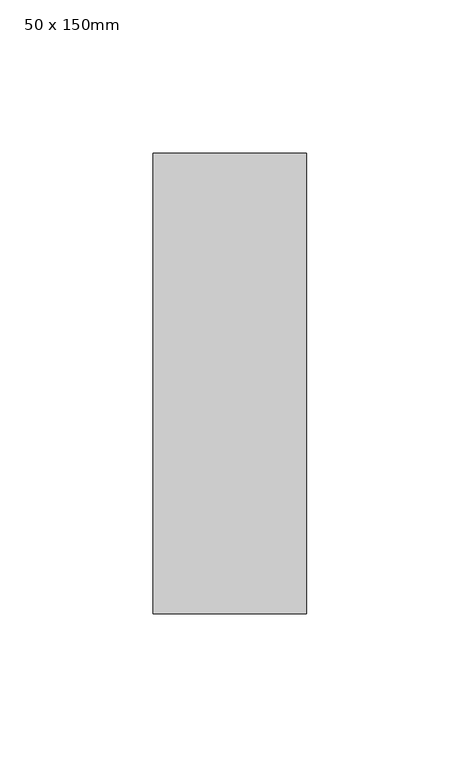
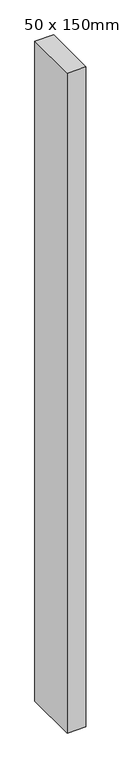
"""IFC4 building model written with IfcOpenShell, lengths in millimetres: member geometry, Прямоугольный импост : 50 x 150mm."""

from ifc_helpers import new_model, si_unit, frame, origin, place, context, project, spatial, polyline, outline, extrude, source, transform, mapped, element, save


def member_50_x_150mm_a8edb3bf(model_context):
    return source(origin(), model_context, "Body", "SweptSolid", [
        extrude(outline(polyline([(0.0, 75.0), (0.0, -75.0), (-50.0, -75.0), (-50.0, 75.0), (0.0, 75.0)])), frame((0.0, 0.0, -1875.0), z_axis=(0.0, 0.0, 1.0), x_axis=(1.0, 0.0, 0.0)), (0.0, 0.0, 1.0), 1875.0),
    ])


if __name__ == "__main__":
    model = new_model("IFC4")
    model_context = context("Model", 3, world=origin())
    ifc_project = project(units=[si_unit("LENGTHUNIT", "METRE", prefix="MILLI")], contexts=[model_context])
    site = spatial("IfcSite", under=ifc_project)
    building = spatial("IfcBuilding", under=site)
    placement = place(None, origin())
    member_50_x_150mm_shape = member_50_x_150mm_a8edb3bf(model_context)
    element("IfcMember", 1, ObjectType="Прямоугольный импост : 50 x 150mm", at=placement, inside=building, context=model_context, shape_type="MappedRepresentation", body=[
        mapped(member_50_x_150mm_shape, transform((0.0, 0.0, 0.0), x_axis=(1.0, 0.0, 0.0), y_axis=(0.0, 1.0, 0.0), z_axis=(0.0, 0.0, 1.0))),
    ])
    save(model, "model.ifc")
